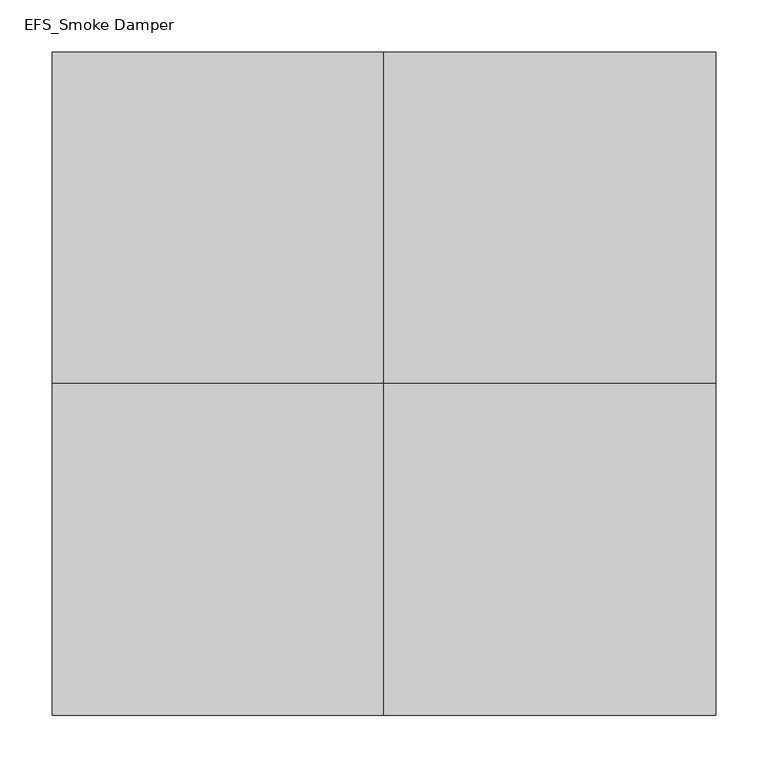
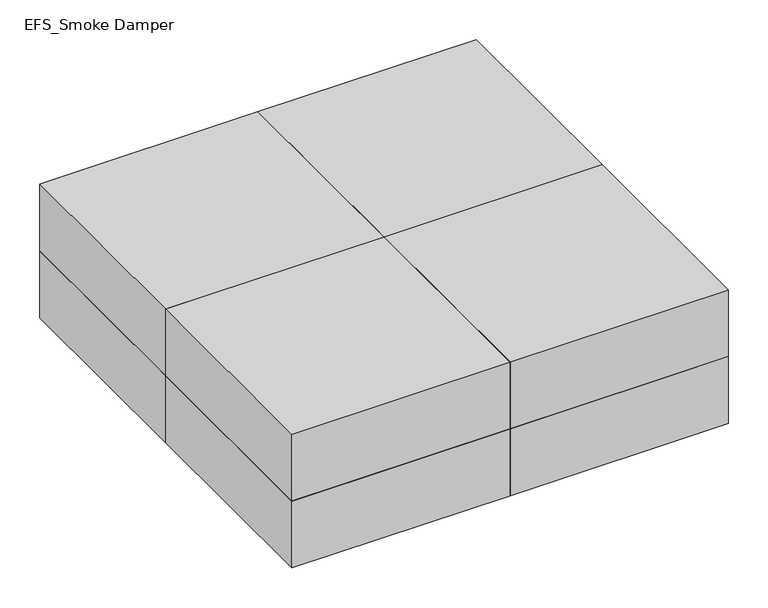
"""IFC4 building model written with IfcOpenShell, lengths in millimetres: proxy geometry, EFS_Smoke Damper : Smoke Damper (SD)_EFS-S-1."""

from ifc_helpers import new_model, si_unit, frame, origin, place, context, project, spatial, polyline, outline, extrude, source, transform, mapped, element, save


def efs_smoke_damper_6f20081f(model_context):
    return source(origin(), model_context, "Body", "SweptSolid", [
        extrude(outline(polyline([(0.0, -318.0), (0.0, 0.0), (318.0, 0.0), (318.0, -318.0), (0.0, -318.0)])), frame((0.0, 0.0, -203.0), z_axis=(0.0, 0.0, 1.0), x_axis=(1.0, 0.0, 0.0)), (0.0, 0.0, 1.0), 103.0),
        extrude(outline(polyline([(0.0, -318.0), (-318.0, -318.0), (-318.0, 0.0), (0.0, 0.0), (0.0, -318.0)])), frame((0.0, 0.0, -203.0), z_axis=(0.0, 0.0, 1.0), x_axis=(1.0, 0.0, 0.0)), (0.0, 0.0, 1.0), 103.0),
        extrude(outline(polyline([(0.0, 318.0), (318.0, 318.0), (318.0, 0.0), (0.0, 0.0), (0.0, 318.0)])), frame((0.0, 0.0, -203.0), z_axis=(0.0, 0.0, 1.0), x_axis=(1.0, 0.0, 0.0)), (0.0, 0.0, 1.0), 103.0),
        extrude(outline(polyline([(0.0, 318.0), (0.0, 0.0), (-318.0, 0.0), (-318.0, 318.0), (0.0, 318.0)])), frame((0.0, 0.0, -203.0), z_axis=(0.0, 0.0, 1.0), x_axis=(1.0, 0.0, 0.0)), (0.0, 0.0, 1.0), 103.0),
        extrude(outline(polyline([(0.0, -318.0), (0.0, 0.0), (318.0, 0.0), (318.0, -318.0), (0.0, -318.0)])), frame((0.0, 0.0, -100.0), z_axis=(0.0, 0.0, 1.0), x_axis=(1.0, 0.0, 0.0)), (0.0, 0.0, 1.0), 103.0),
        extrude(outline(polyline([(0.0, -318.0), (-318.0, -318.0), (-318.0, 0.0), (0.0, 0.0), (0.0, -318.0)])), frame((0.0, 0.0, -100.0), z_axis=(0.0, 0.0, 1.0), x_axis=(1.0, 0.0, 0.0)), (0.0, 0.0, 1.0), 103.0),
        extrude(outline(polyline([(0.0, 318.0), (318.0, 318.0), (318.0, 0.0), (0.0, 0.0), (0.0, 318.0)])), frame((0.0, 0.0, -100.0), z_axis=(0.0, 0.0, 1.0), x_axis=(1.0, 0.0, 0.0)), (0.0, 0.0, 1.0), 103.0),
        extrude(outline(polyline([(0.0, 318.0), (0.0, 0.0), (-318.0, 0.0), (-318.0, 318.0), (0.0, 318.0)])), frame((0.0, 0.0, -100.0), z_axis=(0.0, 0.0, 1.0), x_axis=(1.0, 0.0, 0.0)), (0.0, 0.0, 1.0), 103.0),
    ])


if __name__ == "__main__":
    model = new_model("IFC4")
    model_context = context("Model", 3, world=origin())
    ifc_project = project(units=[si_unit("LENGTHUNIT", "METRE", prefix="MILLI")], contexts=[model_context])
    site = spatial("IfcSite", under=ifc_project)
    building = spatial("IfcBuilding", under=site)
    placement = place(None, origin())
    efs_smoke_damper_shape = efs_smoke_damper_6f20081f(model_context)
    element("IfcBuildingElementProxy", 1, Name="EFS_Smoke Damper : Smoke Damper (SD)_EFS-S-1", ObjectType="EFS_Smoke Damper : Smoke Damper (SD)_EFS-S-1", at=placement, inside=building, context=model_context, shape_type="MappedRepresentation", body=[
        mapped(efs_smoke_damper_shape, transform((0.0, 0.0, 0.0), x_axis=(1.0, 0.0, 0.0), y_axis=(0.0, 1.0, 0.0), z_axis=(0.0, 0.0, 1.0))),
    ])
    save(model, "model.ifc")
